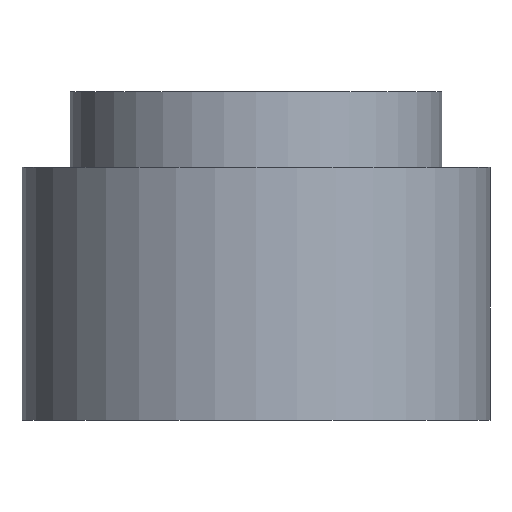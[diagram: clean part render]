
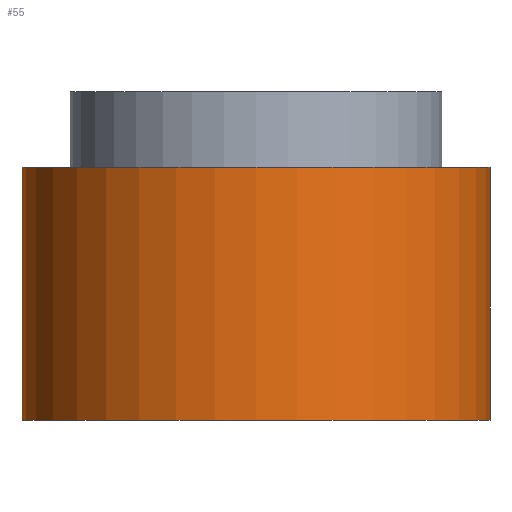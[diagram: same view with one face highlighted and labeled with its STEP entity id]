
A CAD part, front view. The second image highlights one B-rep face of the part: STEP entity #55.
In plain terms, the highlighted cylindrical face has radius 9.25 mm (diameter 18.5 mm), a full revolution.
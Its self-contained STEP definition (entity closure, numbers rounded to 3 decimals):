
#55=ADVANCED_FACE('',(#78,#80),#82,.T.);
#78=FACE_OUTER_BOUND('',#79,.T.);
#79=EDGE_LOOP('',(#123));
#80=FACE_OUTER_BOUND('',#81,.T.);
#81=EDGE_LOOP('',(#124));
#82=CYLINDRICAL_SURFACE('',#83,9.25);
#83=AXIS2_PLACEMENT_3D('',#84,#85,#86);
#84=CARTESIAN_POINT('',(0.,0.,0.));
#85=DIRECTION('',(0.,0.,1.));
#86=DIRECTION('',(-1.,0.,0.));
#123=ORIENTED_EDGE('',*,*,#134,.F.);
#124=ORIENTED_EDGE('',*,*,#131,.T.);
#131=EDGE_CURVE('',#137,#137,#138,.T.);
#134=EDGE_CURVE('',#143,#143,#144,.T.);
#137=VERTEX_POINT('',#149);
#138=CIRCLE('',#150,9.25);
#143=VERTEX_POINT('',#164);
#144=CIRCLE('',#165,9.25);
#149=CARTESIAN_POINT('',(-9.25,0.,0.));
#150=AXIS2_PLACEMENT_3D('',#151,#152,#153);
#151=CARTESIAN_POINT('',(0.,0.,0.));
#152=DIRECTION('',(0.,0.,1.));
#153=DIRECTION('',(-1.,0.,0.));
#164=CARTESIAN_POINT('',(-9.25,0.,10.));
#165=AXIS2_PLACEMENT_3D('',#166,#167,#168);
#166=CARTESIAN_POINT('',(0.,0.,10.));
#167=DIRECTION('',(0.,0.,1.));
#168=DIRECTION('',(-1.,0.,0.));
